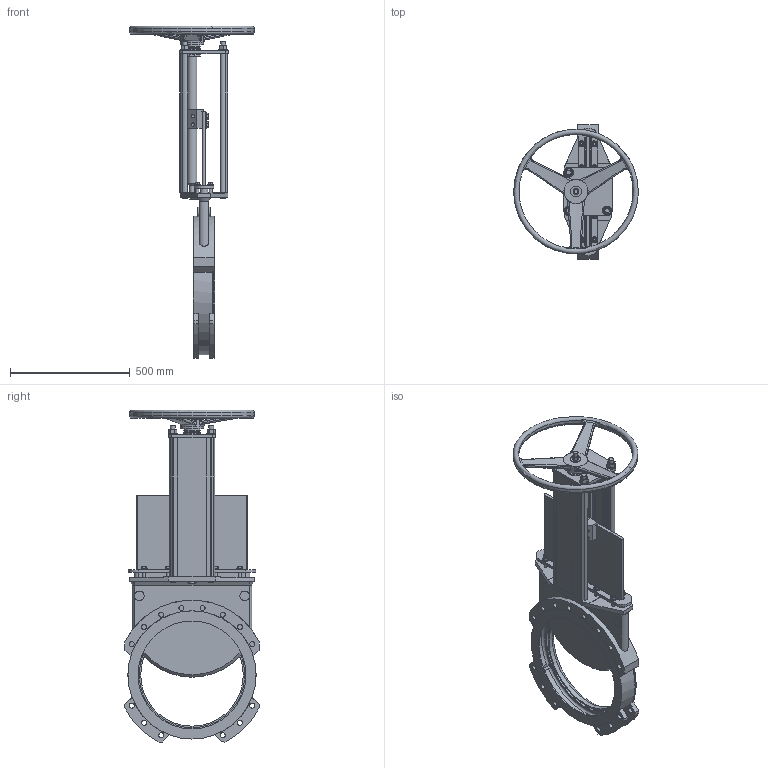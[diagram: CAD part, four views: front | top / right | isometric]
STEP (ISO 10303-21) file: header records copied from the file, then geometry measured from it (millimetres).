
FILE_DESCRIPTION(('STEP AP203'),'1');
FILE_NAME('G:/KONSTRUK/3-d block för CD/MV VALVE/HAND WHEEL/MV450-PN10-HW.stp','2011-09-12T14:26:00',(' '),(' '),'Spatial InterOp 3D',' ',' ');
FILE_SCHEMA(('CONFIG_CONTROL_DESIGN'));
Length unit declared in the file: metre
Products named in the file (1): 1
Bounding box: 520 x 560 x 1385.75 mm (x, y, z)
Volume: 20064115.6 mm3; surface area: 3543954.3 mm2
Topology: 1 solids, 27 shells, 1326 faces, 3148 edges, 1957 vertices
Faces by surface type: plane 617, cone 314, cylinder 303, bspline 78, torus 14
Full cylindrical faces by diameter (mm): 3 x2, 4 x2, 6.75 x4, 8.5 x2, 10.25 x4, 12 x16, 13.435 x8, 14 x4, 15 x8, 16 x1, 17 x4, 17.385 x4, 18 x4, 20 x9, 21 x32, 22.06 x4, 25.14 x8, 28 x1, 31.69 x4, 38.69 x4, 40 x7, 41 x1, 41.5 x2, 42 x2, 44.7 x1, 66 x2, 70 x2, 100 x1, 428 x1, 440 x1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
Entity records: 49713 total; most frequent: CARTESIAN_POINT 21480, DIRECTION 5677, ORIENTED_EDGE 5588, EDGE_CURVE 2794, AXIS2_PLACEMENT_3D 2312, VERTEX_POINT 1851, EDGE_LOOP 1743, FACE_OUTER_BOUND 1485
